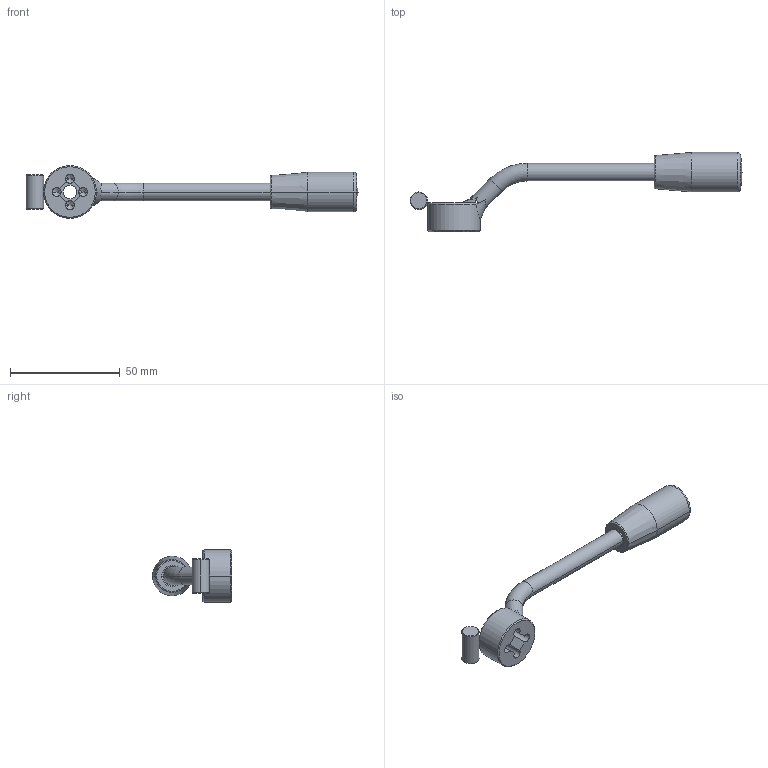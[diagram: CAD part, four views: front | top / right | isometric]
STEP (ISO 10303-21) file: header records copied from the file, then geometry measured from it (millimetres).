
FILE_DESCRIPTION((''),'2;1');
FILE_NAME('93510126240_ASM','2021-02-04T11:07:48',('alfio.taboni'),('CDM Tecnoconsulting'),'CREO PARAMETRIC BY PTC INC, 2020053','CREO PARAMETRIC BY PTC INC, 2020053','');
FILE_SCHEMA(('CONFIG_CONTROL_DESIGN','SHAPE_APPEARANCE_LAYERS_GROUPS'));
Length unit declared in the file: millimetre
Products named in the file (6): 93611006200; 93710106200; 94511206200; 93910126240_ASM; 9381000M200; 93510126240_ASM
Assembly tree (5 placements, depth 3):
  93510126240_ASM
    93910126240_ASM
      93611006200
      93710106200
      94511206200
    9381000M200
Bounding box: 151 x 36 x 24 mm (x, y, z)
Volume: 18263.7 mm3; surface area: 8920.1 mm2
Topology: 4 solids, 6 shells, 182 faces, 479 edges, 304 vertices
Faces by surface type: plane 113, cylinder 31, cone 24, torus 8, bspline 4, sphere 2
Entity records: 6115 total; most frequent: CARTESIAN_POINT 1272, DIRECTION 939, ORIENTED_EDGE 920, EDGE_CURVE 467, VECTOR 357, LINE 357, VERTEX_POINT 304, AXIS2_PLACEMENT_3D 291
